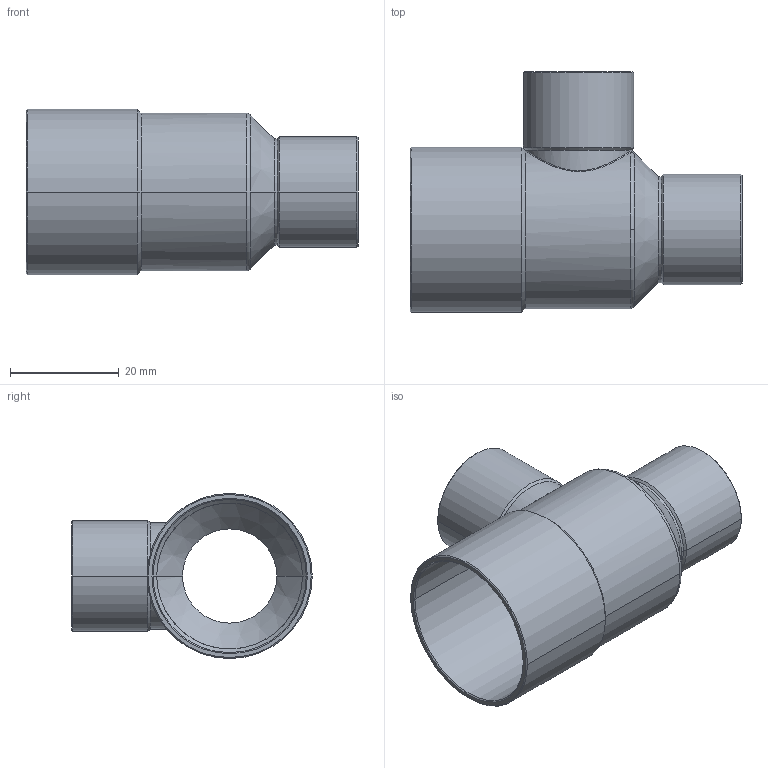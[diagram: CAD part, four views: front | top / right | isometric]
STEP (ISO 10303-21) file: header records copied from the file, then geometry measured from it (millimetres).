
FILE_DESCRIPTION((''),'2;1');
FILE_NAME('G:\Technics\CAD\Bauteile\15130\15130281818.stp','2005-11-03T13:42:42',('boden'),(''),'Autodesk Inventor 8','Autodesk Inventor 8','');
FILE_SCHEMA(('AUTOMOTIVE_DESIGN { 1 0 10303 214 1 1 1 1 }'));
Length unit declared in the file: millimetre
Products named in the file (1): 15130281818
Bounding box: 61 x 44.17 x 30.35 mm (x, y, z)
Volume: 6396.4 mm3; surface area: 11842.7 mm2
Topology: 1 solids, 1 shells, 61 faces, 140 edges, 80 vertices
Faces by surface type: cone 28, cylinder 24, torus 3, bspline 3, plane 3
Entity records: 2303 total; most frequent: CARTESIAN_POINT 904, DIRECTION 303, ORIENTED_EDGE 280, EDGE_CURVE 140, AXIS2_PLACEMENT_3D 127, VERTEX_POINT 80, CIRCLE 68, EDGE_LOOP 64
